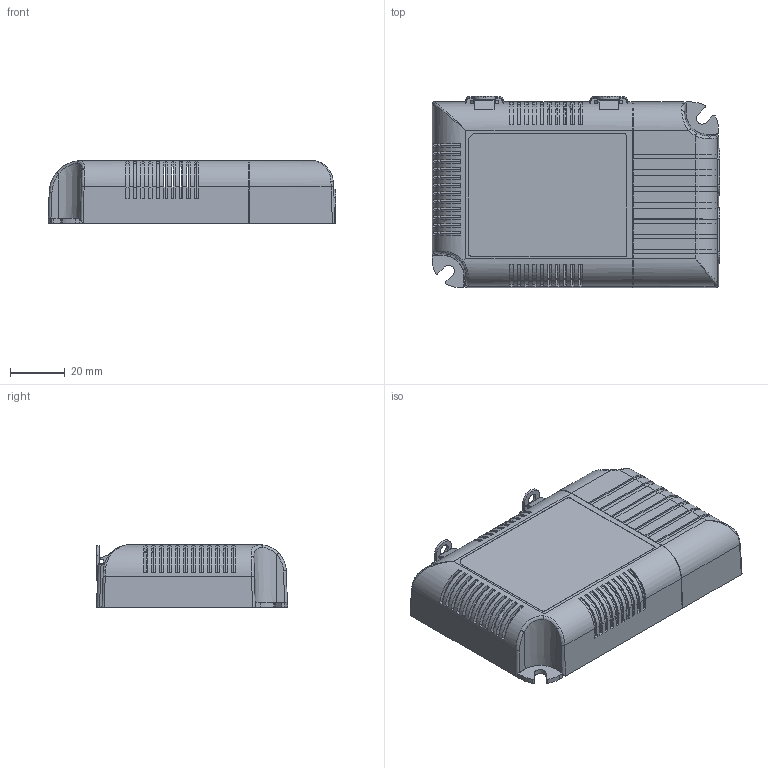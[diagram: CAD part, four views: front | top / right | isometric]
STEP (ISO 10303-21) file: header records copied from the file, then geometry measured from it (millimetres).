
FILE_DESCRIPTION(('Creo Elements/Direct Modeling STEP Export'),'2;1');
FILE_NAME('lcm-25.stp','2014-11-27T 9:02:35',(''),(''),'Creo Elements/Direct Modeling STEP processor for AP214 (Solid Model)','Creo Elements/Direct Modeling 18.1F 24-Jul-2014 (C) Parametric Technology GmbH','');
FILE_SCHEMA(('AUTOMOTIVE_DESIGN { 1 0 10303 214 1 1 1 1 }'));
Length unit declared in the file: millimetre
Products named in the file (15): ÊU£\L; ÊW£\ˆ½.2; p2.2; ÊW£\ˆ½; ÊW£\çu; dd.1.2; JS100107.1_1.1.1; JS100107.1_1.1; pcb.1.1; ¤ïÊl; pcb.1; pcb; a1; a2; Lcm-25
Assembly tree (15 placements, depth 5):
  Lcm-25
    a2
      a1
        pcb
          pcb.1
          ¤ïÊl
          pcb.1.1
      JS100107.1_1.1
      JS100107.1_1.1.1
    dd.1.2
    ÊW£\çu
    ÊW£\ˆ½
      p2.2  x2
      ÊW£\ˆ½.2
    ÊU£\L
Bounding box: 105.5 x 70 x 23 mm (x, y, z)
Volume: 51801.2 mm3; surface area: 66849.6 mm2
Topology: 7 solids, 7 shells, 1649 faces, 4757 edges, 3139 vertices
Faces by surface type: plane 1261, cylinder 347, cone 18, bspline 16, torus 5, extrusion 2
Entity records: 53341 total; most frequent: CARTESIAN_POINT 11165, ORIENTED_EDGE 9250, DIRECTION 7883, EDGE_CURVE 4621, VECTOR 3555, LINE 3553, VERTEX_POINT 3052, AXIS2_PLACEMENT_3D 2164
